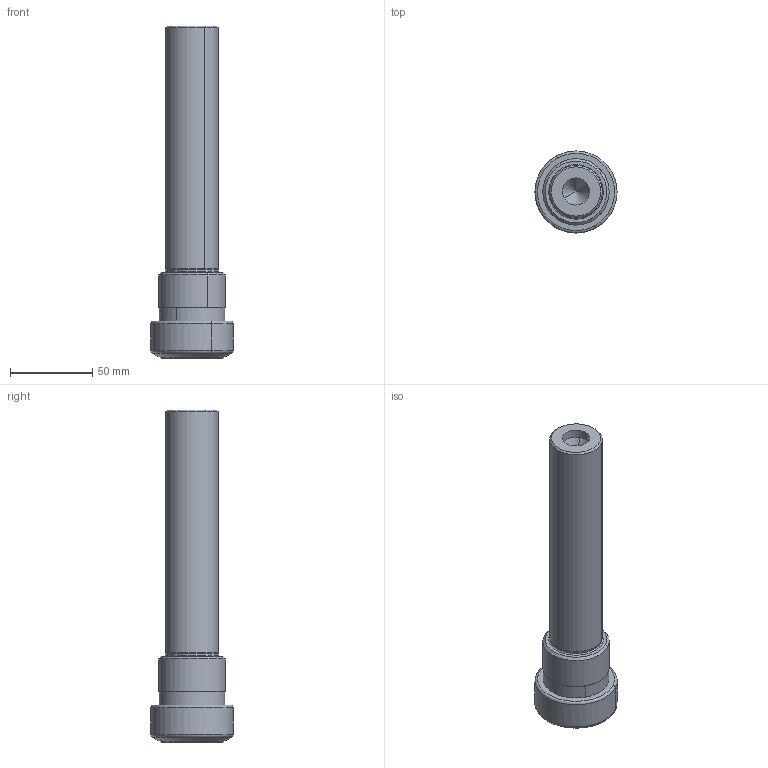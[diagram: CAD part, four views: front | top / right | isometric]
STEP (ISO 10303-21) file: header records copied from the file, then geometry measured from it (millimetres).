
FILE_DESCRIPTION(('CATIA V5 STEP','CAx-IF Rec.Pracs.--- Model Styling and Organization---1.2---2011-12-15'),'2;1');
FILE_NAME('\\nas01\drv1\utils\eitdev\rte\eit\transmagicconvert\db\out\635967324718792997\4508017-L-M.stp','2016-04-20T04:01:22+00:00',('none'),('none'),'CATIA Version 5 Release 21 SP 5 (IN-10)','CATIA V5 STEP AP214','none');
FILE_SCHEMA(('AUTOMOTIVE_DESIGN { 1 0 10303 214 1 1 1 1 }'));
Length unit declared in the file: millimetre
Products named in the file (1): ST 32X150 ER32
Bounding box: 49.99 x 49.99 x 202 mm (x, y, z)
Volume: 167634.6 mm3; surface area: 30260.9 mm2
Topology: 1 solids, 1 shells, 52 faces, 115 edges, 65 vertices
Faces by surface type: cylinder 18, cone 14, torus 10, plane 6, revolution 4
Entity records: 1269 total; most frequent: CARTESIAN_POINT 222, ORIENTED_EDGE 222, DIRECTION 169, EDGE_CURVE 111, AXIS2_PLACEMENT_3D 103, CIRCLE 73, VERTEX_POINT 65, EDGE_LOOP 56
